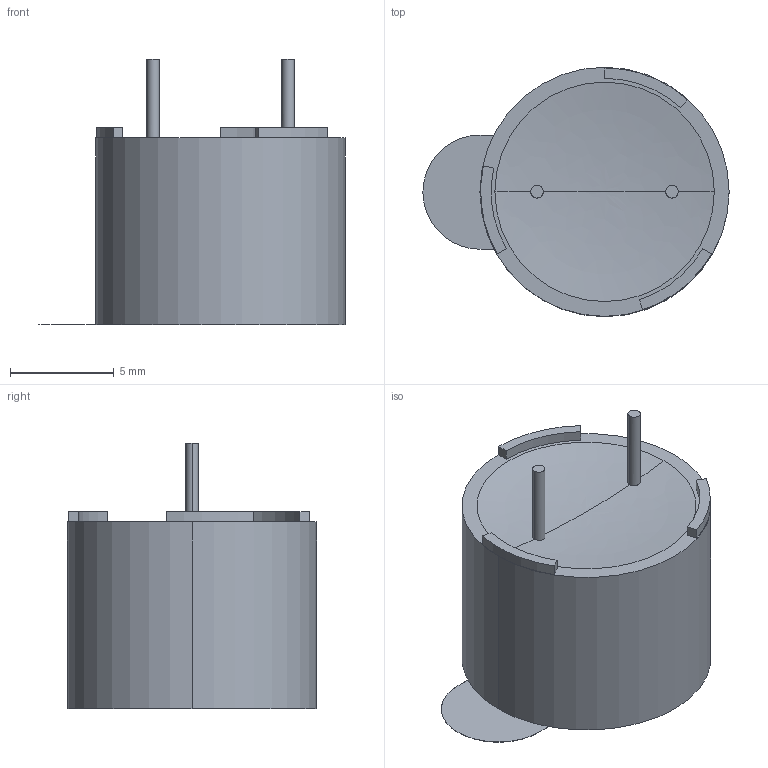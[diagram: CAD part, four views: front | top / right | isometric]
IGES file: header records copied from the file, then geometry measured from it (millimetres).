
Global section: file name: No Iges File Name specified; native system: AutoDesk Inventor R12.0; preprocessor: AutoDesk Inventor Iges Exporter R12.0; date: 20090223.143051; units: millimetre
Bounding box: 14.75 x 12 x 12.81 mm (x, y, z)
Volume: 720.1 mm3; surface area: 1123.3 mm2
Topology: 2 solids, 2 shells, 39 faces, 86 edges, 55 vertices
Faces by surface type: plane 19, cylinder 11, revolution 7, bspline 2
